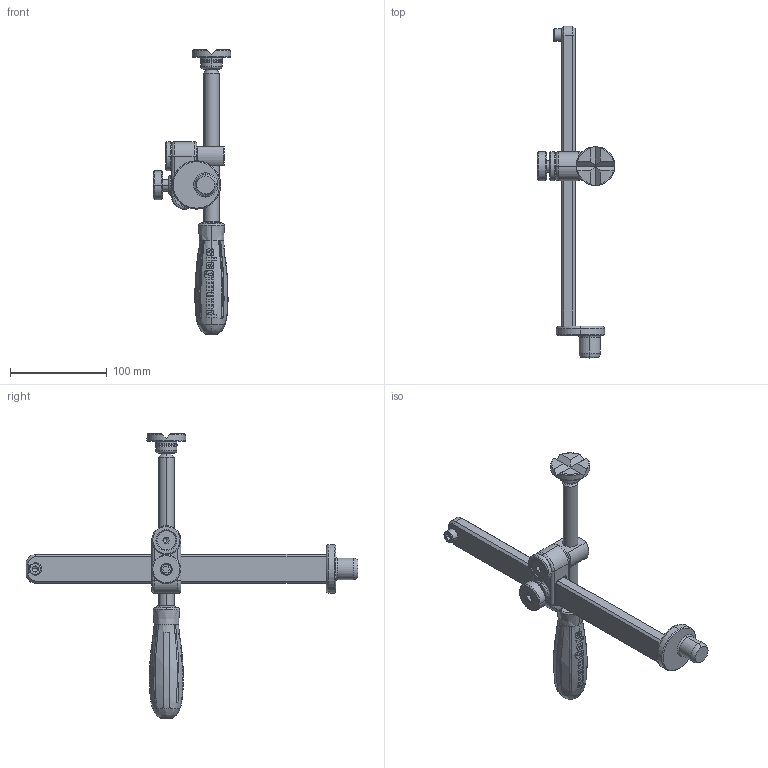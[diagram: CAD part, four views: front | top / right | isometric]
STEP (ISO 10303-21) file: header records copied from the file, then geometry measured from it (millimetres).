
FILE_DESCRIPTION (( 'STEP AP203' ), '1' );
FILE_NAME ('220630.1.STEP', '2020-03-03T12:23:32', ( '' ), ( '' ), 'SwSTEP 2.0', 'SolidWorks 2019', '' );
FILE_SCHEMA (( 'CONFIG_CONTROL_DESIGN' ));
Length unit declared in the file: millimetre
Products named in the file (19): 280662 Handrad f黵 Gusskreuz_280662; 220657.1 Prisma f黵 Schraubzwingen; DIN 913 - M12 x 25-C- br黱iert_DIN 913 - M12 x 25-C- br乶iert; 220630.1; O-Ring 18x2 DIN 3771; DIN 7991 - M10 x 25 --- 25C- br黱iert_DIN 7991 - M10 x 25 --- 25C- br乶iert; 280662 Teller^280662 Handrad f黵 Gusskreuz; 220633 Vertikalstrebe 310_Fl30x14; 280630_289109 Scheibe f黵 Senkschraube; 280617.2 Gusskreuz f黵 280630 FL30x14; 289104_Griff mit Logo; Gummipuffer^220630.1 Professional Schraubzwinge 45_90_Tr16x4; 220634.2 Gewindespindel mit Handgriff 170_Tr16x4; O-Ring 9x2 DIN 3771; DIN 912 M8 x 10 --- 10C- br黱iert_DIN 912 M8 x 10 --- 10C- br乶iert; 220634.2 Gewindespindel mit Handgriff 170_Tr16x4_2; 229108 Spindelführung_Tr 16x4_0
Assembly tree (18 placements, depth 3):
  220630.1
    220633 Vertikalstrebe 310_Fl30x14
      220633 Vertikalstrebe 310_Fl30x14
      DIN 912 M8 x 10 --- 10C- br黱iert_DIN 912 M8 x 10 --- 10C- br乶iert
    280617.2 Gusskreuz f黵 280630 FL30x14
    280630_289109 Scheibe f黵 Senkschraube
    229108 Spindelführung_Tr 16x4_0
    280662 Handrad f黵 Gusskreuz_280662
      DIN 913 - M12 x 25-C- br黱iert_DIN 913 - M12 x 25-C- br乶iert
      280662 Teller^280662 Handrad f黵 Gusskreuz
    Gummipuffer^220630.1 Professional Schraubzwinge 45_90_Tr16x4
    220657.1 Prisma f黵 Schraubzwingen
      220657.1 Prisma f黵 Schraubzwingen
      O-Ring 9x2 DIN 3771
      O-Ring 18x2 DIN 3771
    DIN 7991 - M10 x 25 --- 25C- br黱iert_DIN 7991 - M10 x 25 --- 25C- br乶iert
    220634.2 Gewindespindel mit Handgriff 170_Tr16x4
      220634.2 Gewindespindel mit Handgriff 170_Tr16x4_2
      289104_Griff mit Logo
Bounding box: 80.2 x 343 x 294 mm (x, y, z)
Volume: 340918.8 mm3; surface area: 108305.3 mm2
Topology: 15 solids, 15 shells, 1285 faces, 3655 edges, 2375 vertices
Faces by surface type: bspline 506, plane 487, cylinder 166, cone 62, torus 60, sphere 4
Entity records: 59669 total; most frequent: CARTESIAN_POINT 28028, ORIENTED_EDGE 7288, DIRECTION 4635, EDGE_CURVE 3644, VERTEX_POINT 2372, AXIS2_PLACEMENT_3D 1710, B_SPLINE_CURVE_WITH_KNOTS 1515, EDGE_LOOP 1326
